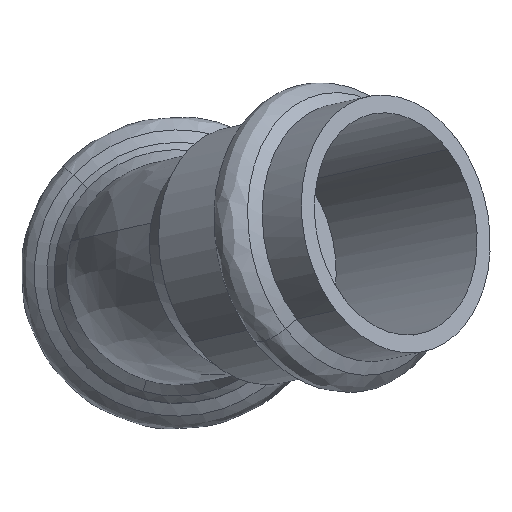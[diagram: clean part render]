
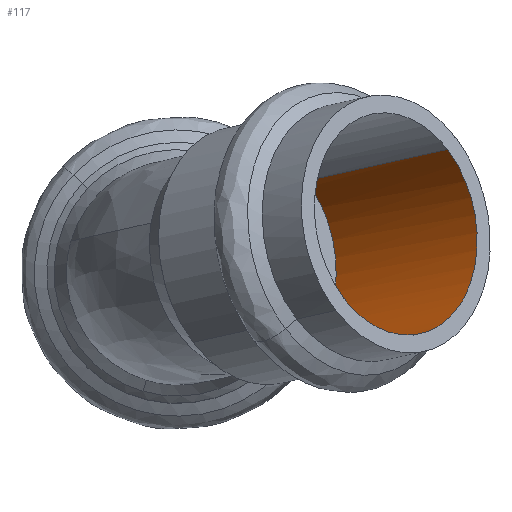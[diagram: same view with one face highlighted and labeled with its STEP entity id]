
A CAD part, top view. The second image highlights one B-rep face of the part: STEP entity #117.
In plain terms, the highlighted cylindrical face has radius 12.675 mm (diameter 25.35 mm), a partial arc.
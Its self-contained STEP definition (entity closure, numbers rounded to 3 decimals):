
#117=ADVANCED_FACE('',(#238),#239,.F.);
#238=FACE_OUTER_BOUND('',#680,.T.);
#239=CYLINDRICAL_SURFACE('',#681,12.675);
#680=EDGE_LOOP('',(#1050,#1051,#1052,#1053,#1054,#1055));
#681=AXIS2_PLACEMENT_3D('',#1056,#1057,#1058);
#1050=ORIENTED_EDGE('',*,*,#1184,.T.);
#1051=ORIENTED_EDGE('',*,*,#1260,.F.);
#1052=ORIENTED_EDGE('',*,*,#1261,.F.);
#1053=ORIENTED_EDGE('',*,*,#1186,.T.);
#1054=ORIENTED_EDGE('',*,*,#1257,.F.);
#1055=ORIENTED_EDGE('',*,*,#1258,.F.);
#1056=CARTESIAN_POINT('',(11.898,2.632,12.186));
#1057=DIRECTION('',(-0.69,-0.153,-0.707));
#1058=DIRECTION('',(-0.458,-0.664,0.591));
#1184=EDGE_CURVE('',#1353,#1354,#1355,.T.);
#1186=EDGE_CURVE('',#1358,#1356,#1359,.T.);
#1257=EDGE_CURVE('',#1462,#1356,#1463,.T.);
#1258=EDGE_CURVE('',#1353,#1462,#1464,.T.);
#1260=EDGE_CURVE('',#1466,#1354,#1467,.T.);
#1261=EDGE_CURVE('',#1358,#1466,#1468,.T.);
#1353=VERTEX_POINT('',#1724);
#1354=VERTEX_POINT('',#1725);
#1355=LINE('',#1726,#1727);
#1356=VERTEX_POINT('',#1728);
#1358=VERTEX_POINT('',#1741);
#1359=LINE('',#1742,#1743);
#1462=VERTEX_POINT('',#2310);
#1463=(B_SPLINE_CURVE(2,(#2312,#2313,#2314),.UNSPECIFIED.,.F.,.F.)B_SPLINE_CURVE_WITH_KNOTS((3,3),(-3.142,-1.571),.UNSPECIFIED.)RATIONAL_B_SPLINE_CURVE((1.0,0.707,1.0))BOUNDED_CURVE()REPRESENTATION_ITEM('')GEOMETRIC_REPRESENTATION_ITEM()CURVE());
#1464=(B_SPLINE_CURVE(2,(#2322,#2323,#2324),.UNSPECIFIED.,.F.,.F.)B_SPLINE_CURVE_WITH_KNOTS((3,3),(1.571,3.142),.UNSPECIFIED.)RATIONAL_B_SPLINE_CURVE((1.0,0.707,1.0))BOUNDED_CURVE()REPRESENTATION_ITEM('')GEOMETRIC_REPRESENTATION_ITEM()CURVE());
#1466=VERTEX_POINT('',#2332);
#1467=(B_SPLINE_CURVE(2,(#2334,#2335,#2336),.UNSPECIFIED.,.F.,.F.)B_SPLINE_CURVE_WITH_KNOTS((3,3),(-3.142,-1.571),.UNSPECIFIED.)RATIONAL_B_SPLINE_CURVE((1.0,0.707,1.0))BOUNDED_CURVE()REPRESENTATION_ITEM('')GEOMETRIC_REPRESENTATION_ITEM()CURVE());
#1468=(B_SPLINE_CURVE(2,(#2344,#2345,#2346),.UNSPECIFIED.,.F.,.F.)B_SPLINE_CURVE_WITH_KNOTS((3,3),(1.571,3.142),.UNSPECIFIED.)RATIONAL_B_SPLINE_CURVE((1.0,0.707,1.0))BOUNDED_CURVE()REPRESENTATION_ITEM('')GEOMETRIC_REPRESENTATION_ITEM()CURVE());
#1724=CARTESIAN_POINT('',(2.912,-6.484,16.424));
#1725=CARTESIAN_POINT('',(18.792,-2.971,32.687));
#1726=CARTESIAN_POINT('',(6.088,-5.781,19.676));
#1727=VECTOR('',#2516,1.0);
#1728=CARTESIAN_POINT('',(14.533,10.343,1.443));
#1741=CARTESIAN_POINT('',(30.412,13.856,17.706));
#1742=CARTESIAN_POINT('',(17.709,11.046,4.695));
#1743=VECTOR('',#2517,1.0);
#2310=CARTESIAN_POINT('',(15.816,-7.351,4.012));
#2312=CARTESIAN_POINT('',(15.816,-7.351,4.012));
#2313=CARTESIAN_POINT('',(21.626,1.063,-3.479));
#2314=CARTESIAN_POINT('',(14.533,10.343,1.443));
#2322=CARTESIAN_POINT('',(2.912,-6.484,16.424));
#2323=CARTESIAN_POINT('',(10.005,-15.764,11.502));
#2324=CARTESIAN_POINT('',(15.816,-7.351,4.012));
#2332=CARTESIAN_POINT('',(31.695,-3.838,20.275));
#2334=CARTESIAN_POINT('',(31.695,-3.838,20.275));
#2335=CARTESIAN_POINT('',(25.885,-12.251,27.766));
#2336=CARTESIAN_POINT('',(18.792,-2.971,32.687));
#2344=CARTESIAN_POINT('',(30.412,13.856,17.706));
#2345=CARTESIAN_POINT('',(37.506,4.576,12.785));
#2346=CARTESIAN_POINT('',(31.695,-3.838,20.275));
#2516=DIRECTION('',(0.69,0.153,0.707));
#2517=DIRECTION('',(-0.69,-0.153,-0.707));
